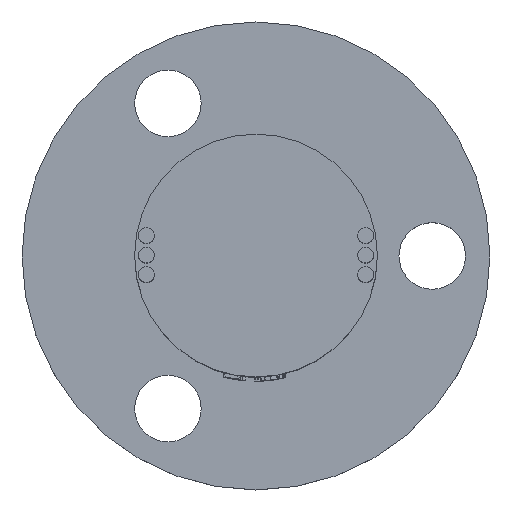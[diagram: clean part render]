
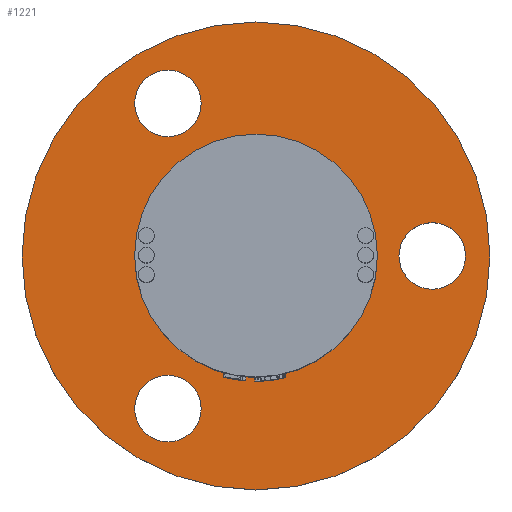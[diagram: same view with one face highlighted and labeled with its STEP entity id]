
A CAD part, top view. The second image highlights one B-rep face of the part: STEP entity #1221.
In plain terms, the highlighted planar face has unit normal (0, 0, 1).
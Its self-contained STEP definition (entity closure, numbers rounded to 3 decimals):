
#147=FACE_BOUND('',#3668,.T.);
#148=FACE_BOUND('',#3669,.T.);
#149=FACE_BOUND('',#3670,.T.);
#150=FACE_BOUND('',#3671,.T.);
#151=FACE_BOUND('',#3672,.T.);
#270=CIRCLE('',#13476,6.2);
#271=CIRCLE('',#13478,1.7);
#272=CIRCLE('',#13479,1.7);
#273=CIRCLE('',#13480,1.7);
#274=CIRCLE('',#13481,11.95);
#564=PLANE('',#13482);
#1221=ADVANCED_FACE('',(#147,#148,#149,#150,#151),#564,.T.);
#3668=EDGE_LOOP('',(#6493));
#3669=EDGE_LOOP('',(#6494));
#3670=EDGE_LOOP('',(#6495));
#3671=EDGE_LOOP('',(#6496));
#3672=EDGE_LOOP('',(#6497));
#6493=ORIENTED_EDGE('',*,*,#10655,.F.);
#6494=ORIENTED_EDGE('',*,*,#10656,.F.);
#6495=ORIENTED_EDGE('',*,*,#10657,.F.);
#6496=ORIENTED_EDGE('',*,*,#10658,.F.);
#6497=ORIENTED_EDGE('',*,*,#10659,.F.);
#8833=VERTEX_POINT('',#26727);
#8834=VERTEX_POINT('',#26730);
#8835=VERTEX_POINT('',#26732);
#8836=VERTEX_POINT('',#26734);
#8837=VERTEX_POINT('',#26736);
#10655=EDGE_CURVE('',#8833,#8833,#270,.T.);
#10656=EDGE_CURVE('',#8834,#8834,#271,.T.);
#10657=EDGE_CURVE('',#8835,#8835,#272,.T.);
#10658=EDGE_CURVE('',#8836,#8836,#273,.T.);
#10659=EDGE_CURVE('',#8837,#8837,#274,.T.);
#13476=AXIS2_PLACEMENT_3D('',#26726,#14633,#14634);
#13478=AXIS2_PLACEMENT_3D('',#26729,#14637,#14638);
#13479=AXIS2_PLACEMENT_3D('',#26731,#14639,#14640);
#13480=AXIS2_PLACEMENT_3D('',#26733,#14641,#14642);
#13481=AXIS2_PLACEMENT_3D('',#26735,#14643,#14644);
#13482=AXIS2_PLACEMENT_3D('',#26737,#14645,#14646);
#14633=DIRECTION('',(0.,0.,1.));
#14634=DIRECTION('',(1.,0.,0.));
#14637=DIRECTION('',(0.,0.,1.));
#14638=DIRECTION('',(1.,0.,0.));
#14639=DIRECTION('',(0.,0.,1.));
#14640=DIRECTION('',(1.,0.,0.));
#14641=DIRECTION('',(0.,0.,1.));
#14642=DIRECTION('',(1.,0.,0.));
#14643=DIRECTION('',(0.,0.,-1.));
#14644=DIRECTION('',(1.,0.,0.));
#14645=DIRECTION('',(0.,0.,1.));
#14646=DIRECTION('',(1.,0.,0.));
#26726=CARTESIAN_POINT('',(0.,0.,5.5));
#26727=CARTESIAN_POINT('',(6.2,0.,5.5));
#26729=CARTESIAN_POINT('',(9.,0.,5.5));
#26730=CARTESIAN_POINT('',(10.7,0.,5.5));
#26731=CARTESIAN_POINT('',(-4.5,7.794,5.5));
#26732=CARTESIAN_POINT('',(-2.8,7.794,5.5));
#26733=CARTESIAN_POINT('',(-4.5,-7.794,5.5));
#26734=CARTESIAN_POINT('',(-2.8,-7.794,5.5));
#26735=CARTESIAN_POINT('',(0.,0.,5.5));
#26736=CARTESIAN_POINT('',(11.95,0.,5.5));
#26737=CARTESIAN_POINT('',(0.,0.,5.5));
